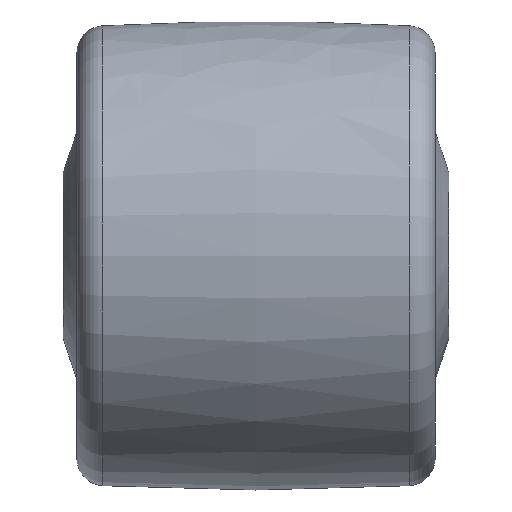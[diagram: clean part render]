
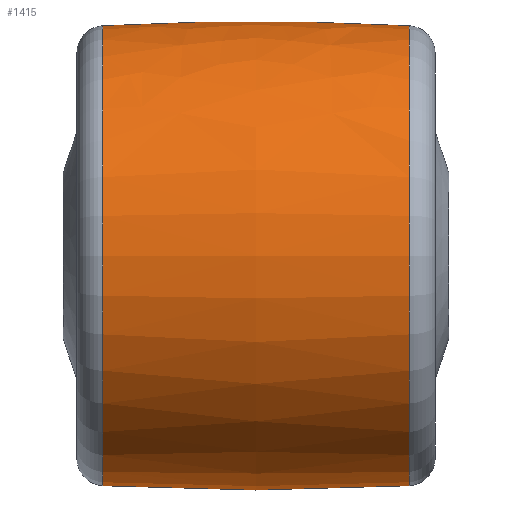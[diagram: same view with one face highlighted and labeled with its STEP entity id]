
A CAD part, front view. The second image highlights one B-rep face of the part: STEP entity #1415.
In plain terms, the highlighted free-form (B-spline) face has degree [2, 2] with [3, 9] control points.
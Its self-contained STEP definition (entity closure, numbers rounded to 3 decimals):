
#49=(
BOUNDED_SURFACE()
B_SPLINE_SURFACE(2,2,((#2486,#2487,#2488,#2489,#2490,#2491,#2492,#2493,
#2494),(#2495,#2496,#2497,#2498,#2499,#2500,#2501,#2502,#2503),(#2504,#2505,
#2506,#2507,#2508,#2509,#2510,#2511,#2512)),.UNSPECIFIED.,.F.,.T.,.F.)
B_SPLINE_SURFACE_WITH_KNOTS((3,3),(3,2,2,2,3),(-0.056,0.056),
(-3.142,-1.571,0.,1.571,3.142),
 .UNSPECIFIED.)
GEOMETRIC_REPRESENTATION_ITEM()
RATIONAL_B_SPLINE_SURFACE(((1.,0.707,1.,0.707,1.,
0.707,1.,0.707,1.),(0.998,0.706,
0.998,0.706,0.998,0.706,0.998,
0.706,0.998),(1.,0.707,1.,0.707,
1.,0.707,1.,0.707,1.)))
REPRESENTATION_ITEM('')
SURFACE()
);
#281=FACE_OUTER_BOUND('',#373,.T.);
#373=EDGE_LOOP('',(#1083,#1084,#1085,#1086,#1087,#1088));
#495=CIRCLE('',#1622,41.728);
#496=CIRCLE('',#1623,41.728);
#498=CIRCLE('',#1625,41.728);
#499=CIRCLE('',#1626,41.728);
#500=CIRCLE('',#1627,500.);
#653=VERTEX_POINT('',#2481);
#654=VERTEX_POINT('',#2482);
#655=VERTEX_POINT('',#2513);
#656=VERTEX_POINT('',#2514);
#829=EDGE_CURVE('',#653,#654,#495,.T.);
#830=EDGE_CURVE('',#654,#653,#496,.T.);
#832=EDGE_CURVE('',#655,#656,#498,.T.);
#833=EDGE_CURVE('',#656,#655,#499,.T.);
#834=EDGE_CURVE('',#656,#654,#500,.T.);
#1083=ORIENTED_EDGE('',*,*,#832,.F.);
#1084=ORIENTED_EDGE('',*,*,#833,.F.);
#1085=ORIENTED_EDGE('',*,*,#834,.T.);
#1086=ORIENTED_EDGE('',*,*,#830,.T.);
#1087=ORIENTED_EDGE('',*,*,#829,.T.);
#1088=ORIENTED_EDGE('',*,*,#834,.F.);
#1415=ADVANCED_FACE('',(#281),#49,.F.);
#1622=AXIS2_PLACEMENT_3D('',#2483,#1953,#1954);
#1623=AXIS2_PLACEMENT_3D('',#2484,#1955,#1956);
#1625=AXIS2_PLACEMENT_3D('',#2515,#1959,#1960);
#1626=AXIS2_PLACEMENT_3D('',#2516,#1961,#1962);
#1627=AXIS2_PLACEMENT_3D('',#2517,#1963,#1964);
#1953=DIRECTION('center_axis',(1.,0.,0.));
#1954=DIRECTION('ref_axis',(0.,0.,-1.));
#1955=DIRECTION('center_axis',(1.,0.,0.));
#1956=DIRECTION('ref_axis',(0.,0.,-1.));
#1959=DIRECTION('center_axis',(1.,0.,0.));
#1960=DIRECTION('ref_axis',(0.,0.,-1.));
#1961=DIRECTION('center_axis',(1.,0.,0.));
#1962=DIRECTION('ref_axis',(0.,0.,-1.));
#1963=DIRECTION('center_axis',(0.,-1.,0.));
#1964=DIRECTION('ref_axis',(0.,0.,1.));
#2481=CARTESIAN_POINT('',(4.722,0.,-41.728));
#2482=CARTESIAN_POINT('',(4.722,0.,41.728));
#2483=CARTESIAN_POINT('Origin',(4.722,0.,0.));
#2484=CARTESIAN_POINT('Origin',(4.722,0.,0.));
#2486=CARTESIAN_POINT('Ctrl Pts',(4.722,0.,41.728));
#2487=CARTESIAN_POINT('Ctrl Pts',(4.722,-41.728,41.728));
#2488=CARTESIAN_POINT('Ctrl Pts',(4.722,-41.728,0.));
#2489=CARTESIAN_POINT('Ctrl Pts',(4.722,-41.728,-41.728));
#2490=CARTESIAN_POINT('Ctrl Pts',(4.722,0.,-41.728));
#2491=CARTESIAN_POINT('Ctrl Pts',(4.722,41.728,-41.728));
#2492=CARTESIAN_POINT('Ctrl Pts',(4.722,41.728,0.));
#2493=CARTESIAN_POINT('Ctrl Pts',(4.722,41.728,41.728));
#2494=CARTESIAN_POINT('Ctrl Pts',(4.722,0.,41.728));
#2495=CARTESIAN_POINT('Ctrl Pts',(32.5,0.,43.273));
#2496=CARTESIAN_POINT('Ctrl Pts',(32.5,-43.273,43.273));
#2497=CARTESIAN_POINT('Ctrl Pts',(32.5,-43.273,0.));
#2498=CARTESIAN_POINT('Ctrl Pts',(32.5,-43.273,-43.273));
#2499=CARTESIAN_POINT('Ctrl Pts',(32.5,0.,-43.273));
#2500=CARTESIAN_POINT('Ctrl Pts',(32.5,43.273,-43.273));
#2501=CARTESIAN_POINT('Ctrl Pts',(32.5,43.273,0.));
#2502=CARTESIAN_POINT('Ctrl Pts',(32.5,43.273,43.273));
#2503=CARTESIAN_POINT('Ctrl Pts',(32.5,0.,43.273));
#2504=CARTESIAN_POINT('Ctrl Pts',(60.278,0.,41.728));
#2505=CARTESIAN_POINT('Ctrl Pts',(60.278,-41.728,41.728));
#2506=CARTESIAN_POINT('Ctrl Pts',(60.278,-41.728,0.));
#2507=CARTESIAN_POINT('Ctrl Pts',(60.278,-41.728,-41.728));
#2508=CARTESIAN_POINT('Ctrl Pts',(60.278,0.,-41.728));
#2509=CARTESIAN_POINT('Ctrl Pts',(60.278,41.728,-41.728));
#2510=CARTESIAN_POINT('Ctrl Pts',(60.278,41.728,0.));
#2511=CARTESIAN_POINT('Ctrl Pts',(60.278,41.728,41.728));
#2512=CARTESIAN_POINT('Ctrl Pts',(60.278,0.,41.728));
#2513=CARTESIAN_POINT('',(60.278,0.,-41.728));
#2514=CARTESIAN_POINT('',(60.278,0.,41.728));
#2515=CARTESIAN_POINT('Origin',(60.278,0.,0.));
#2516=CARTESIAN_POINT('Origin',(60.278,0.,0.));
#2517=CARTESIAN_POINT('Origin',(32.5,0.,-457.5));
